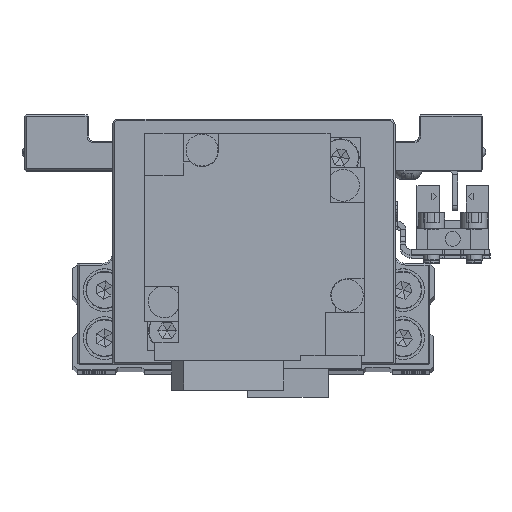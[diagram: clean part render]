
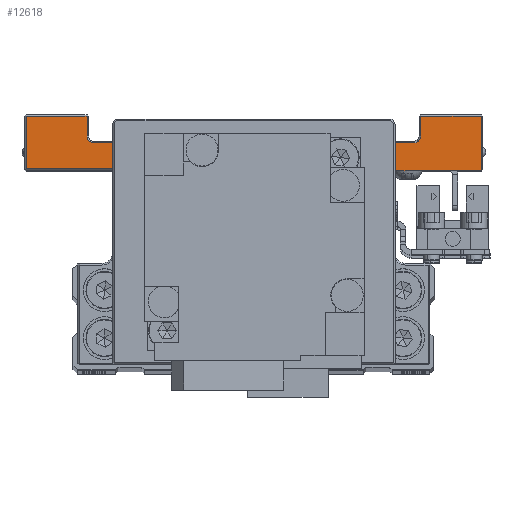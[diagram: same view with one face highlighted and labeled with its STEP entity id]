
A CAD part, top view. The second image highlights one B-rep face of the part: STEP entity #12618.
In plain terms, the highlighted planar face has unit normal (0, 0, 1) as drawn and (1, 0, 0) by its records, which use the part's own axes.
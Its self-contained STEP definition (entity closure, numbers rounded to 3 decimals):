
#165 = EDGE_CURVE ( 'NONE', #25696, #5670, #17131, .T. ) ;
#191 = CARTESIAN_POINT ( 'NONE',  ( 45., 7.8, 19.7 ) ) ;
#470 = CARTESIAN_POINT ( 'NONE',  ( 45., 7.5, -19.7 ) ) ;
#912 = DIRECTION ( 'NONE',  ( 0., -1., 0. ) ) ;
#1701 = DIRECTION ( 'NONE',  ( -1., 0., 0. ) ) ;
#2900 = CARTESIAN_POINT ( 'NONE',  ( 45., 7.5, -42.7 ) ) ;
#2936 = LINE ( 'NONE', #13917, #5490 ) ;
#3185 = VECTOR ( 'NONE', #14447, 1000. ) ;
#3448 = DIRECTION ( 'NONE',  ( 0., 0., -1. ) ) ;
#3468 = CARTESIAN_POINT ( 'NONE',  ( 45., 7.5, 43. ) ) ;
#3571 = VECTOR ( 'NONE', #15858, 1000. ) ;
#4354 = LINE ( 'NONE', #15328, #32424 ) ;
#4396 = ORIENTED_EDGE ( 'NONE', *, *, #33545, .T. ) ;
#4740 = VERTEX_POINT ( 'NONE', #21183 ) ;
#4878 = CARTESIAN_POINT ( 'NONE',  ( 45., 7.5, 31.3 ) ) ;
#5014 = AXIS2_PLACEMENT_3D ( 'NONE', #34454, #9884, #20854 ) ;
#5490 = VECTOR ( 'NONE', #24852, 1000. ) ;
#5624 = VERTEX_POINT ( 'NONE', #19085 ) ;
#5670 = VERTEX_POINT ( 'NONE', #191 ) ;
#5905 = VECTOR ( 'NONE', #18424, 1000. ) ;
#6771 = AXIS2_PLACEMENT_3D ( 'NONE', #26308, #1701, #12676 ) ;
#7055 = VECTOR ( 'NONE', #33333, 1000. ) ;
#7448 = CARTESIAN_POINT ( 'NONE',  ( 45., 17.7, -20. ) ) ;
#7997 = VERTEX_POINT ( 'NONE', #34330 ) ;
#8382 = EDGE_CURVE ( 'NONE', #20759, #33186, #14583, .T. ) ;
#9713 = CARTESIAN_POINT ( 'NONE',  ( 45., 14., -30. ) ) ;
#9884 = DIRECTION ( 'NONE',  ( -1., 0., 0. ) ) ;
#10293 = DIRECTION ( 'NONE',  ( 0., 0., 1. ) ) ;
#10349 = CARTESIAN_POINT ( 'NONE',  ( 45., 7.8, 42.7 ) ) ;
#10635 = EDGE_CURVE ( 'NONE', #27863, #19605, #2936, .T. ) ;
#10885 = EDGE_CURVE ( 'NONE', #5670, #5624, #4354, .T. ) ;
#11435 = DIRECTION ( 'NONE',  ( 0., 1., 0. ) ) ;
#11459 = LINE ( 'NONE', #22416, #7055 ) ;
#12219 = EDGE_CURVE ( 'NONE', #19645, #12302, #23938, .T. ) ;
#12251 = EDGE_LOOP ( 'NONE', ( #33825, #31953, #35231, #28688, #22888, #16862, #27813, #16262, #19204, #30194, #12856, #32576, #20231, #4396 ) ) ;
#12302 = VERTEX_POINT ( 'NONE', #24454 ) ;
#12419 = VERTEX_POINT ( 'NONE', #30532 ) ;
#12581 = FACE_OUTER_BOUND ( 'NONE', #12251, .T. ) ;
#12618 = ADVANCED_FACE ( 'NONE', ( #12581 ), #23529, .F. ) ;
#12676 = DIRECTION ( 'NONE',  ( 0., 0., 1. ) ) ;
#12856 = ORIENTED_EDGE ( 'NONE', *, *, #18998, .T. ) ;
#12960 = EDGE_CURVE ( 'NONE', #12302, #31291, #22253, .T. ) ;
#13021 = LINE ( 'NONE', #23964, #30548 ) ;
#13445 = LINE ( 'NONE', #24387, #19617 ) ;
#13569 = AXIS2_PLACEMENT_3D ( 'NONE', #9713, #20675, #31582 ) ;
#13917 = CARTESIAN_POINT ( 'NONE',  ( 45., 7.5, -42.7 ) ) ;
#14047 = CARTESIAN_POINT ( 'NONE',  ( 45., 12.7, -30. ) ) ;
#14447 = DIRECTION ( 'NONE',  ( 0., 0., -1. ) ) ;
#14583 = LINE ( 'NONE', #25516, #25164 ) ;
#15142 = EDGE_CURVE ( 'NONE', #31291, #7997, #29470, .T. ) ;
#15328 = CARTESIAN_POINT ( 'NONE',  ( 45., 7.5, 19.7 ) ) ;
#15858 = DIRECTION ( 'NONE',  ( 0., 1., 0. ) ) ;
#16262 = ORIENTED_EDGE ( 'NONE', *, *, #12960, .T. ) ;
#16382 = VECTOR ( 'NONE', #3448, 1000. ) ;
#16862 = ORIENTED_EDGE ( 'NONE', *, *, #28063, .T. ) ;
#17131 = LINE ( 'NONE', #28046, #16382 ) ;
#17497 = EDGE_CURVE ( 'NONE', #12419, #4740, #25081, .T. ) ;
#18424 = DIRECTION ( 'NONE',  ( 0., 0., 1. ) ) ;
#18797 = VECTOR ( 'NONE', #10293, 1000. ) ;
#18984 = EDGE_CURVE ( 'NONE', #19605, #20759, #32025, .T. ) ;
#18998 = EDGE_CURVE ( 'NONE', #26105, #25696, #13021, .T. ) ;
#19085 = CARTESIAN_POINT ( 'NONE',  ( 45., -8.2, 19.7 ) ) ;
#19204 = ORIENTED_EDGE ( 'NONE', *, *, #15142, .T. ) ;
#19450 = CARTESIAN_POINT ( 'NONE',  ( 45., 17.7, -42.7 ) ) ;
#19605 = VERTEX_POINT ( 'NONE', #19450 ) ;
#19617 = VECTOR ( 'NONE', #35322, 1000. ) ;
#19645 = VERTEX_POINT ( 'NONE', #14047 ) ;
#20231 = ORIENTED_EDGE ( 'NONE', *, *, #10885, .T. ) ;
#20309 = CARTESIAN_POINT ( 'NONE',  ( 45., 14., -31.3 ) ) ;
#20675 = DIRECTION ( 'NONE',  ( -1., 0., 0. ) ) ;
#20759 = VERTEX_POINT ( 'NONE', #29289 ) ;
#20854 = DIRECTION ( 'NONE',  ( 0., 0., 1. ) ) ;
#20923 = CARTESIAN_POINT ( 'NONE',  ( 45., 17.7, 42.7 ) ) ;
#21183 = CARTESIAN_POINT ( 'NONE',  ( 45., 7.5, -19.7 ) ) ;
#22253 = CIRCLE ( 'NONE', #6771, 1.3 ) ;
#22416 = CARTESIAN_POINT ( 'NONE',  ( 45., -8.2, -20. ) ) ;
#22888 = ORIENTED_EDGE ( 'NONE', *, *, #8382, .T. ) ;
#23529 = PLANE ( 'NONE',  #5014 ) ;
#23938 = LINE ( 'NONE', #34861, #18797 ) ;
#23964 = CARTESIAN_POINT ( 'NONE',  ( 45., 7.5, 42.7 ) ) ;
#24385 = CARTESIAN_POINT ( 'NONE',  ( 45., 14., 31.3 ) ) ;
#24387 = CARTESIAN_POINT ( 'NONE',  ( 45., 17.7, -20. ) ) ;
#24454 = CARTESIAN_POINT ( 'NONE',  ( 45., 12.7, 30. ) ) ;
#24852 = DIRECTION ( 'NONE',  ( 0., 1., 0. ) ) ;
#24930 = VECTOR ( 'NONE', #11435, 1000. ) ;
#25081 = LINE ( 'NONE', #470, #24930 ) ;
#25164 = VECTOR ( 'NONE', #912, 1000. ) ;
#25516 = CARTESIAN_POINT ( 'NONE',  ( 45., 7.5, -31.3 ) ) ;
#25696 = VERTEX_POINT ( 'NONE', #10349 ) ;
#26105 = VERTEX_POINT ( 'NONE', #20923 ) ;
#26257 = DIRECTION ( 'NONE',  ( 0., -1., 0. ) ) ;
#26308 = CARTESIAN_POINT ( 'NONE',  ( 45., 14., 30. ) ) ;
#27557 = EDGE_CURVE ( 'NONE', #4740, #27863, #28069, .T. ) ;
#27813 = ORIENTED_EDGE ( 'NONE', *, *, #12219, .T. ) ;
#27863 = VERTEX_POINT ( 'NONE', #2900 ) ;
#28046 = CARTESIAN_POINT ( 'NONE',  ( 45., 7.8, 20. ) ) ;
#28063 = EDGE_CURVE ( 'NONE', #33186, #19645, #29017, .T. ) ;
#28069 = LINE ( 'NONE', #3468, #3185 ) ;
#28688 = ORIENTED_EDGE ( 'NONE', *, *, #18984, .T. ) ;
#29017 = CIRCLE ( 'NONE', #13569, 1.3 ) ;
#29289 = CARTESIAN_POINT ( 'NONE',  ( 45., 17.7, -31.3 ) ) ;
#29470 = LINE ( 'NONE', #4878, #3571 ) ;
#30194 = ORIENTED_EDGE ( 'NONE', *, *, #32171, .T. ) ;
#30532 = CARTESIAN_POINT ( 'NONE',  ( 45., -8.2, -19.7 ) ) ;
#30548 = VECTOR ( 'NONE', #34888, 1000. ) ;
#31291 = VERTEX_POINT ( 'NONE', #24385 ) ;
#31582 = DIRECTION ( 'NONE',  ( 0., 0., 1. ) ) ;
#31953 = ORIENTED_EDGE ( 'NONE', *, *, #27557, .T. ) ;
#32025 = LINE ( 'NONE', #7448, #5905 ) ;
#32171 = EDGE_CURVE ( 'NONE', #7997, #26105, #13445, .T. ) ;
#32424 = VECTOR ( 'NONE', #26257, 1000. ) ;
#32576 = ORIENTED_EDGE ( 'NONE', *, *, #165, .T. ) ;
#33186 = VERTEX_POINT ( 'NONE', #20309 ) ;
#33333 = DIRECTION ( 'NONE',  ( 0., 0., -1. ) ) ;
#33545 = EDGE_CURVE ( 'NONE', #5624, #12419, #11459, .T. ) ;
#33825 = ORIENTED_EDGE ( 'NONE', *, *, #17497, .T. ) ;
#34330 = CARTESIAN_POINT ( 'NONE',  ( 45., 17.7, 31.3 ) ) ;
#34454 = CARTESIAN_POINT ( 'NONE',  ( 45., 7.5, -20. ) ) ;
#34861 = CARTESIAN_POINT ( 'NONE',  ( 45., 12.7, 30. ) ) ;
#34888 = DIRECTION ( 'NONE',  ( 0., -1., 0. ) ) ;
#35231 = ORIENTED_EDGE ( 'NONE', *, *, #10635, .T. ) ;
#35322 = DIRECTION ( 'NONE',  ( 0., 0., 1. ) ) ;
